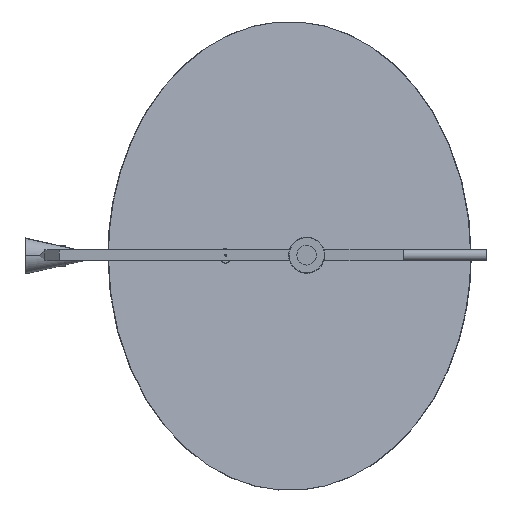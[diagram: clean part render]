
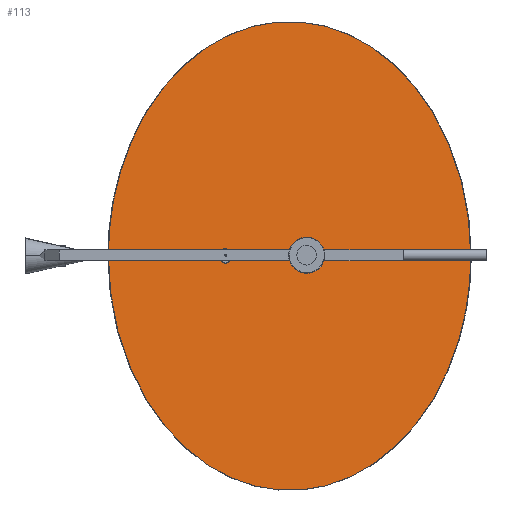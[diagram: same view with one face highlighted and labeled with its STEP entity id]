
A CAD part, top view. The second image highlights one B-rep face of the part: STEP entity #113.
In plain terms, the highlighted planar face has unit normal (0.633, 0, 0.774).
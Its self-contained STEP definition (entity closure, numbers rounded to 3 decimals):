
#40=PLANE('',#912);
#113=ADVANCED_FACE('',(#180),#40,.T.);
#180=FACE_OUTER_BOUND('',#247,.T.);
#247=EDGE_LOOP('',(#374,#375));
#374=ORIENTED_EDGE('',*,*,#564,.T.);
#375=ORIENTED_EDGE('',*,*,#567,.T.);
#564=EDGE_CURVE('',#788,#790,#693,.T.);
#567=EDGE_CURVE('',#790,#788,#695,.T.);
#693=(
BOUNDED_CURVE()
B_SPLINE_CURVE(2,(#1384,#1385,#1386,#1387,#1388),.UNSPECIFIED.,.F.,.F.)
B_SPLINE_CURVE_WITH_KNOTS((3,2,3),(0.,549.779,1099.557),
 .UNSPECIFIED.)
CURVE()
GEOMETRIC_REPRESENTATION_ITEM()
RATIONAL_B_SPLINE_CURVE((1.,0.707,1.,0.707,1.))
REPRESENTATION_ITEM('')
);
#695=(
BOUNDED_CURVE()
B_SPLINE_CURVE(2,(#1396,#1397,#1398,#1399,#1400),.UNSPECIFIED.,.F.,.F.)
B_SPLINE_CURVE_WITH_KNOTS((3,2,3),(1099.557,1649.336,2199.115),
 .UNSPECIFIED.)
CURVE()
GEOMETRIC_REPRESENTATION_ITEM()
RATIONAL_B_SPLINE_CURVE((1.,0.707,1.,0.707,1.))
REPRESENTATION_ITEM('')
);
#788=VERTEX_POINT('',#1374);
#790=VERTEX_POINT('',#1376);
#912=AXIS2_PLACEMENT_3D('',#1362,#935,$);
#935=DIRECTION('',(0.633,0.,0.774));
#1362=CARTESIAN_POINT('',(41128.908,-24413.759,1626.352));
#1374=CARTESIAN_POINT('',(41694.906,-24007.509,1163.349));
#1376=CARTESIAN_POINT('',(41191.797,-24007.509,1574.908));
#1384=CARTESIAN_POINT('',(41694.906,-24007.509,1163.349));
#1385=CARTESIAN_POINT('',(41694.906,-23682.509,1163.349));
#1386=CARTESIAN_POINT('',(41443.351,-23682.509,1369.128));
#1387=CARTESIAN_POINT('',(41191.797,-23682.509,1574.908));
#1388=CARTESIAN_POINT('',(41191.797,-24007.509,1574.908));
#1396=CARTESIAN_POINT('',(41191.797,-24007.509,1574.908));
#1397=CARTESIAN_POINT('',(41191.797,-24332.509,1574.908));
#1398=CARTESIAN_POINT('',(41443.351,-24332.509,1369.128));
#1399=CARTESIAN_POINT('',(41694.906,-24332.509,1163.349));
#1400=CARTESIAN_POINT('',(41694.906,-24007.509,1163.349));
